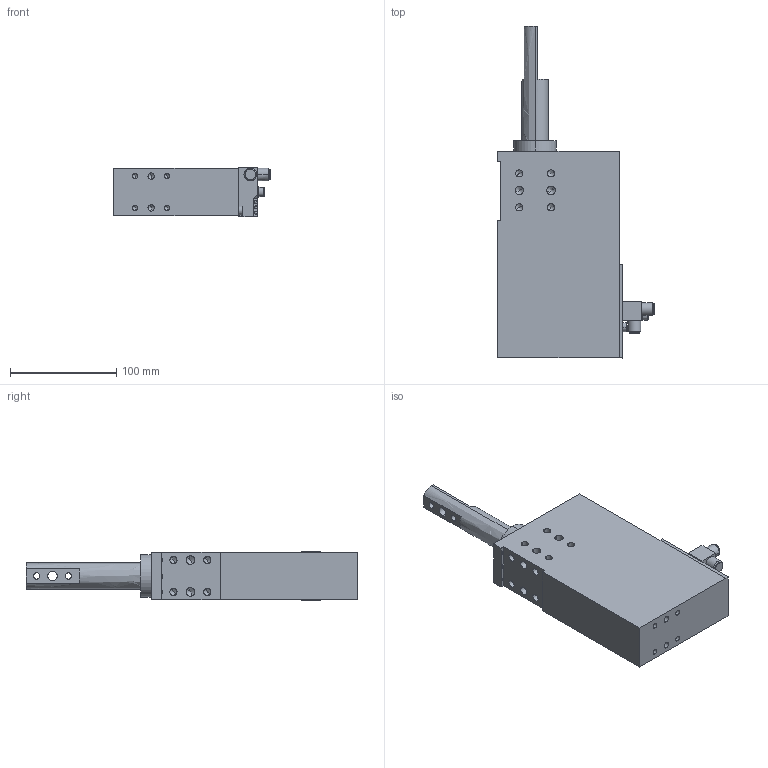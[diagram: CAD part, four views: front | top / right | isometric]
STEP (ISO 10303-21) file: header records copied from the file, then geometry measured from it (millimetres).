
FILE_DESCRIPTION(('CATIA V5 STEP Exchange'),'2;1');
FILE_NAME('G:\Konstruktion\Modelle\UPLOAD\SZV_1_40_A12_T12_TUENKERS.stp','2014-09-18T06:55:18+00:00',('none'),('none'),'CATIA Version 5 Release 19 SP 9 (IN-10)','CATIA V5 STEP AP203','none');
FILE_SCHEMA(('CONFIG_CONTROL_DESIGN'));
Length unit declared in the file: millimetre
Products named in the file (1): SZV_1_40_A12_T12_TUENKERS
Bounding box: 148 x 313 x 47 mm (x, y, z)
Volume: 1067254.6 mm3; surface area: 96030.1 mm2
Topology: 1 solids, 1 shells, 214 faces, 617 edges, 371 vertices
Faces by surface type: cylinder 84, cone 66, plane 35, bspline 13, sphere 12, torus 4
Entity records: 6550 total; most frequent: CARTESIAN_POINT 1781, ORIENTED_EDGE 1086, DIRECTION 715, EDGE_CURVE 543, AXIS2_PLACEMENT_3D 383, VERTEX_POINT 371, CIRCLE 267, EDGE_LOOP 266
